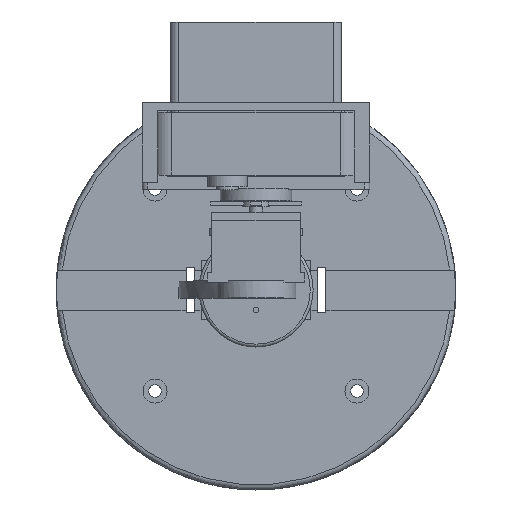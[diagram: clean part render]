
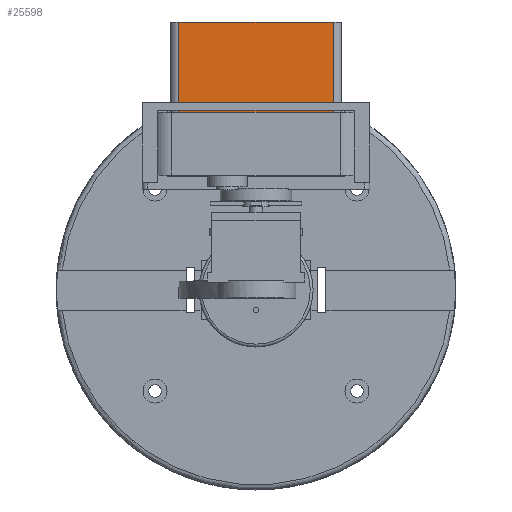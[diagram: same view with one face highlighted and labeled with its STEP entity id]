
A CAD part, top view. The second image highlights one B-rep face of the part: STEP entity #25598.
In plain terms, the highlighted planar face has unit normal (0, 0, 1).
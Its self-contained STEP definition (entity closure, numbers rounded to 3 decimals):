
#24968 = PLANE('',#24969);
#24969 = AXIS2_PLACEMENT_3D('',#24970,#24971,#24972);
#24970 = CARTESIAN_POINT('',(-30.,49.,90.));
#24971 = DIRECTION('',(0.,1.,0.));
#24972 = DIRECTION('',(0.,0.,1.));
#25024 = PLANE('',#25025);
#25025 = AXIS2_PLACEMENT_3D('',#25026,#25027,#25028);
#25026 = CARTESIAN_POINT('',(-30.,93.64,90.));
#25027 = DIRECTION('',(0.,1.,0.));
#25028 = DIRECTION('',(0.,0.,1.));
#25050 = CYLINDRICAL_SURFACE('',#25051,3.);
#25051 = AXIS2_PLACEMENT_3D('',#25052,#25053,#25054);
#25052 = CARTESIAN_POINT('',(-27.,49.,99.));
#25053 = DIRECTION('',(0.,1.,0.));
#25054 = DIRECTION('',(-1.,0.,0.));
#25123 = VERTEX_POINT('',#25124);
#25124 = CARTESIAN_POINT('',(-27.,49.,102.));
#25146 = EDGE_CURVE('',#25123,#25147,#25149,.T.);
#25147 = VERTEX_POINT('',#25148);
#25148 = CARTESIAN_POINT('',(27.,49.,102.));
#25149 = SURFACE_CURVE('',#25150,(#25154,#25161),.PCURVE_S1.);
#25150 = LINE('',#25151,#25152);
#25151 = CARTESIAN_POINT('',(-30.,49.,102.));
#25152 = VECTOR('',#25153,1.);
#25153 = DIRECTION('',(1.,0.,0.));
#25154 = PCURVE('',#24968,#25155);
#25155 = DEFINITIONAL_REPRESENTATION('',(#25156),#25160);
#25156 = LINE('',#25157,#25158);
#25157 = CARTESIAN_POINT('',(12.,0.));
#25158 = VECTOR('',#25159,1.);
#25159 = DIRECTION('',(0.,1.));
#25160 = ( GEOMETRIC_REPRESENTATION_CONTEXT(2) 
PARAMETRIC_REPRESENTATION_CONTEXT() REPRESENTATION_CONTEXT('2D SPACE',''
  ) );
#25161 = PCURVE('',#25162,#25167);
#25162 = PLANE('',#25163);
#25163 = AXIS2_PLACEMENT_3D('',#25164,#25165,#25166);
#25164 = CARTESIAN_POINT('',(-30.,49.,102.));
#25165 = DIRECTION('',(0.,0.,1.));
#25166 = DIRECTION('',(1.,0.,0.));
#25167 = DEFINITIONAL_REPRESENTATION('',(#25168),#25172);
#25168 = LINE('',#25169,#25170);
#25169 = CARTESIAN_POINT('',(0.,0.));
#25170 = VECTOR('',#25171,1.);
#25171 = DIRECTION('',(1.,0.));
#25172 = ( GEOMETRIC_REPRESENTATION_CONTEXT(2) 
PARAMETRIC_REPRESENTATION_CONTEXT() REPRESENTATION_CONTEXT('2D SPACE',''
  ) );
#25195 = CYLINDRICAL_SURFACE('',#25196,3.);
#25196 = AXIS2_PLACEMENT_3D('',#25197,#25198,#25199);
#25197 = CARTESIAN_POINT('',(27.,49.,99.));
#25198 = DIRECTION('',(0.,1.,0.));
#25199 = DIRECTION('',(1.,0.,-0.));
#25320 = EDGE_CURVE('',#25123,#25321,#25323,.T.);
#25321 = VERTEX_POINT('',#25322);
#25322 = CARTESIAN_POINT('',(-27.,93.64,102.));
#25323 = SURFACE_CURVE('',#25324,(#25328,#25335),.PCURVE_S1.);
#25324 = LINE('',#25325,#25326);
#25325 = CARTESIAN_POINT('',(-27.,49.,102.));
#25326 = VECTOR('',#25327,1.);
#25327 = DIRECTION('',(0.,1.,0.));
#25328 = PCURVE('',#25050,#25329);
#25329 = DEFINITIONAL_REPRESENTATION('',(#25330),#25334);
#25330 = LINE('',#25331,#25332);
#25331 = CARTESIAN_POINT('',(1.571,0.));
#25332 = VECTOR('',#25333,1.);
#25333 = DIRECTION('',(0.,1.));
#25334 = ( GEOMETRIC_REPRESENTATION_CONTEXT(2) 
PARAMETRIC_REPRESENTATION_CONTEXT() REPRESENTATION_CONTEXT('2D SPACE',''
  ) );
#25335 = PCURVE('',#25162,#25336);
#25336 = DEFINITIONAL_REPRESENTATION('',(#25337),#25341);
#25337 = LINE('',#25338,#25339);
#25338 = CARTESIAN_POINT('',(3.,0.));
#25339 = VECTOR('',#25340,1.);
#25340 = DIRECTION('',(0.,1.));
#25341 = ( GEOMETRIC_REPRESENTATION_CONTEXT(2) 
PARAMETRIC_REPRESENTATION_CONTEXT() REPRESENTATION_CONTEXT('2D SPACE',''
  ) );
#25395 = EDGE_CURVE('',#25321,#25396,#25398,.T.);
#25396 = VERTEX_POINT('',#25397);
#25397 = CARTESIAN_POINT('',(27.,93.64,102.));
#25398 = SURFACE_CURVE('',#25399,(#25403,#25410),.PCURVE_S1.);
#25399 = LINE('',#25400,#25401);
#25400 = CARTESIAN_POINT('',(-30.,93.64,102.));
#25401 = VECTOR('',#25402,1.);
#25402 = DIRECTION('',(1.,0.,0.));
#25403 = PCURVE('',#25024,#25404);
#25404 = DEFINITIONAL_REPRESENTATION('',(#25405),#25409);
#25405 = LINE('',#25406,#25407);
#25406 = CARTESIAN_POINT('',(12.,0.));
#25407 = VECTOR('',#25408,1.);
#25408 = DIRECTION('',(0.,1.));
#25409 = ( GEOMETRIC_REPRESENTATION_CONTEXT(2) 
PARAMETRIC_REPRESENTATION_CONTEXT() REPRESENTATION_CONTEXT('2D SPACE',''
  ) );
#25410 = PCURVE('',#25162,#25411);
#25411 = DEFINITIONAL_REPRESENTATION('',(#25412),#25416);
#25412 = LINE('',#25413,#25414);
#25413 = CARTESIAN_POINT('',(0.,44.64));
#25414 = VECTOR('',#25415,1.);
#25415 = DIRECTION('',(1.,0.));
#25416 = ( GEOMETRIC_REPRESENTATION_CONTEXT(2) 
PARAMETRIC_REPRESENTATION_CONTEXT() REPRESENTATION_CONTEXT('2D SPACE',''
  ) );
#25576 = EDGE_CURVE('',#25147,#25396,#25577,.T.);
#25577 = SURFACE_CURVE('',#25578,(#25582,#25589),.PCURVE_S1.);
#25578 = LINE('',#25579,#25580);
#25579 = CARTESIAN_POINT('',(27.,49.,102.));
#25580 = VECTOR('',#25581,1.);
#25581 = DIRECTION('',(0.,1.,0.));
#25582 = PCURVE('',#25195,#25583);
#25583 = DEFINITIONAL_REPRESENTATION('',(#25584),#25588);
#25584 = LINE('',#25585,#25586);
#25585 = CARTESIAN_POINT('',(-1.571,0.));
#25586 = VECTOR('',#25587,1.);
#25587 = DIRECTION('',(-0.,1.));
#25588 = ( GEOMETRIC_REPRESENTATION_CONTEXT(2) 
PARAMETRIC_REPRESENTATION_CONTEXT() REPRESENTATION_CONTEXT('2D SPACE',''
  ) );
#25589 = PCURVE('',#25162,#25590);
#25590 = DEFINITIONAL_REPRESENTATION('',(#25591),#25595);
#25591 = LINE('',#25592,#25593);
#25592 = CARTESIAN_POINT('',(57.,0.));
#25593 = VECTOR('',#25594,1.);
#25594 = DIRECTION('',(0.,1.));
#25595 = ( GEOMETRIC_REPRESENTATION_CONTEXT(2) 
PARAMETRIC_REPRESENTATION_CONTEXT() REPRESENTATION_CONTEXT('2D SPACE',''
  ) );
#25598 = ADVANCED_FACE('',(#25599),#25162,.T.);
#25599 = FACE_BOUND('',#25600,.T.);
#25600 = EDGE_LOOP('',(#25601,#25602,#25603,#25604));
#25601 = ORIENTED_EDGE('',*,*,#25395,.F.);
#25602 = ORIENTED_EDGE('',*,*,#25320,.F.);
#25603 = ORIENTED_EDGE('',*,*,#25146,.T.);
#25604 = ORIENTED_EDGE('',*,*,#25576,.T.);
